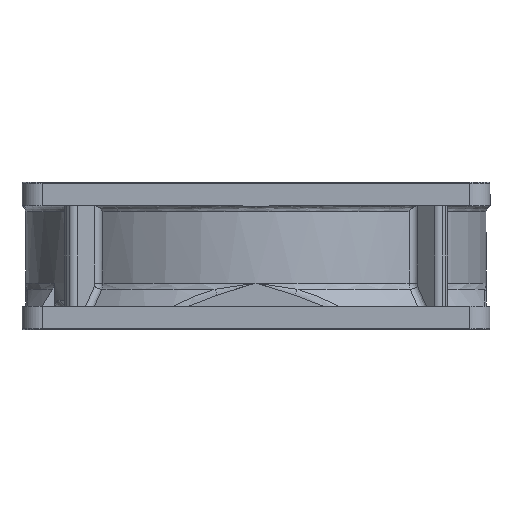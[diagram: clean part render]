
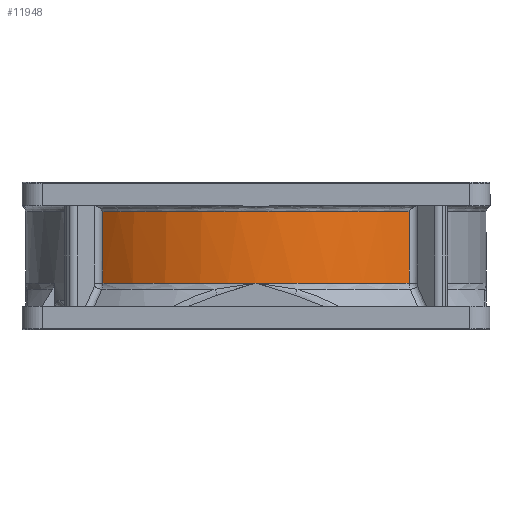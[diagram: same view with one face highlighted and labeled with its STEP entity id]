
A CAD part, front view. The second image highlights one B-rep face of the part: STEP entity #11948.
In plain terms, the highlighted cylindrical face has radius 39.4 mm (diameter 78.8 mm), a partial arc.
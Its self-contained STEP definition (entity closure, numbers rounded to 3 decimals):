
#349 = CARTESIAN_POINT ( 'NONE',  ( 26.156, -29.466, 21.2 ) ) ;
#439 = CARTESIAN_POINT ( 'NONE',  ( -24.373, -31.048, 7.968 ) ) ;
#840 = CARTESIAN_POINT ( 'NONE',  ( -2.384, -39.4, 7.968 ) ) ;
#1028 = EDGE_CURVE ( 'NONE', #13004, #22014, #13681, .T. ) ;
#2783 = CARTESIAN_POINT ( 'NONE',  ( 2.384, -39.4, 7.968 ) ) ;
#3484 = CARTESIAN_POINT ( 'NONE',  ( 18.369, -34.937, 20.2 ) ) ;
#3679 = CARTESIAN_POINT ( 'NONE',  ( -24.373, -31.048, 20.2 ) ) ;
#4407 = CARTESIAN_POINT ( 'NONE',  ( -26.156, -29.466, 7.968 ) ) ;
#4885 = DIRECTION ( 'NONE',  ( 0., 0., 1. ) ) ;
#5724 = EDGE_CURVE ( 'NONE', #30045, #39602, #26516, .T. ) ;
#7314 = CARTESIAN_POINT ( 'NONE',  ( 4.767, -39.183, 7.968 ) ) ;
#8012 = CARTESIAN_POINT ( 'NONE',  ( 11.761, -37.679, 20.2 ) ) ;
#8148 = LINE ( 'NONE', #349, #54982 ) ;
#8446 = CARTESIAN_POINT ( 'NONE',  ( -26.156, -29.466, 7.968 ) ) ;
#9250 = ORIENTED_EDGE ( 'NONE', *, *, #29427, .T. ) ;
#11875 = CARTESIAN_POINT ( 'NONE',  ( 9.456, -38.323, 7.968 ) ) ;
#11948 = ADVANCED_FACE ( 'NONE', ( #16561 ), #39274, .T. ) ;
#12027 = EDGE_CURVE ( 'NONE', #39602, #30598, #13735, .T. ) ;
#12562 = CARTESIAN_POINT ( 'NONE',  ( 4.767, -39.183, 20.2 ) ) ;
#13004 = VERTEX_POINT ( 'NONE', #55385 ) ;
#13681 = B_SPLINE_CURVE_WITH_KNOTS ( 'NONE', 3,
 ( #39029, #2783, #7314, #11875, #43614, #16403, #48166, #20986, #52733, #25574 ),
 .UNSPECIFIED., .F., .F.,
 ( 4, 2, 2, 2, 4 ),
 ( 0., 0.25, 0.5, 0.75, 1. ),
 .UNSPECIFIED. ) ;
#13735 = LINE ( 'NONE', #8446, #25829 ) ;
#16403 = CARTESIAN_POINT ( 'NONE',  ( 16.218, -35.987, 7.968 ) ) ;
#16561 = FACE_OUTER_BOUND ( 'NONE', #28130, .T. ) ;
#17108 = CARTESIAN_POINT ( 'NONE',  ( -2.384, -39.4, 20.2 ) ) ;
#18831 = CARTESIAN_POINT ( 'NONE',  ( -18.369, -34.937, 7.968 ) ) ;
#20986 = CARTESIAN_POINT ( 'NONE',  ( 22.447, -32.468, 7.968 ) ) ;
#21683 = CARTESIAN_POINT ( 'NONE',  ( -9.456, -38.323, 20.2 ) ) ;
#22014 = VERTEX_POINT ( 'NONE', #40852 ) ;
#22191 = CARTESIAN_POINT ( 'NONE',  ( -26.156, -29.466, 7.968 ) ) ;
#23414 = CARTESIAN_POINT ( 'NONE',  ( -11.761, -37.679, 7.968 ) ) ;
#24776 = DIRECTION ( 'NONE',  ( -1., 0., 0. ) ) ;
#25574 = CARTESIAN_POINT ( 'NONE',  ( 26.156, -29.466, 7.968 ) ) ;
#25829 = VECTOR ( 'NONE', #35631, 1000. ) ;
#26070 = CARTESIAN_POINT ( 'NONE',  ( 24.373, -31.048, 20.2 ) ) ;
#26262 = CARTESIAN_POINT ( 'NONE',  ( -16.218, -35.987, 20.2 ) ) ;
#26516 = B_SPLINE_CURVE_WITH_KNOTS ( 'NONE', 3,
 ( #30634, #26070, #53041, #3484, #35177, #8012, #39719, #12562, #44314, #17108, #48874, #21683, #53432, #26262, #57989, #30829, #3679, #35372 ),
 .UNSPECIFIED., .F., .F.,
 ( 4, 2, 2, 2, 2, 2, 2, 2, 4 ),
 ( 0., 0.125, 0.25, 0.375, 0.5, 0.625, 0.75, 0.875, 1. ),
 .UNSPECIFIED. ) ;
#27974 = CARTESIAN_POINT ( 'NONE',  ( -4.767, -39.183, 7.968 ) ) ;
#28130 = EDGE_LOOP ( 'NONE', ( #39705, #9250, #52694, #41087, #47107 ) ) ;
#29427 = EDGE_CURVE ( 'NONE', #30598, #13004, #43376, .T. ) ;
#30045 = VERTEX_POINT ( 'NONE', #52050 ) ;
#30598 = VERTEX_POINT ( 'NONE', #22191 ) ;
#30634 = CARTESIAN_POINT ( 'NONE',  ( 26.156, -29.466, 20.2 ) ) ;
#30829 = CARTESIAN_POINT ( 'NONE',  ( -22.447, -32.468, 20.2 ) ) ;
#32548 = CARTESIAN_POINT ( 'NONE',  ( 0., -39.4, 7.968 ) ) ;
#35177 = CARTESIAN_POINT ( 'NONE',  ( 16.218, -35.987, 20.2 ) ) ;
#35372 = CARTESIAN_POINT ( 'NONE',  ( -26.156, -29.466, 20.2 ) ) ;
#35631 = DIRECTION ( 'NONE',  ( 0., 0., -1. ) ) ;
#38413 = CARTESIAN_POINT ( 'NONE',  ( 0., 0., 21.2 ) ) ;
#39029 = CARTESIAN_POINT ( 'NONE',  ( 0., -39.4, 7.968 ) ) ;
#39274 = CYLINDRICAL_SURFACE ( 'NONE', #55286, 39.4 ) ;
#39602 = VERTEX_POINT ( 'NONE', #58685 ) ;
#39705 = ORIENTED_EDGE ( 'NONE', *, *, #12027, .T. ) ;
#39719 = CARTESIAN_POINT ( 'NONE',  ( 9.456, -38.323, 20.2 ) ) ;
#39818 = EDGE_CURVE ( 'NONE', #22014, #30045, #8148, .T. ) ;
#40852 = CARTESIAN_POINT ( 'NONE',  ( 26.156, -29.466, 7.968 ) ) ;
#41087 = ORIENTED_EDGE ( 'NONE', *, *, #39818, .T. ) ;
#43376 = B_SPLINE_CURVE_WITH_KNOTS ( 'NONE', 3,
 ( #4407, #439, #46026, #18831, #50577, #23414, #55115, #27974, #840, #32548 ),
 .UNSPECIFIED., .F., .F.,
 ( 4, 2, 2, 2, 4 ),
 ( 0., 0.25, 0.5, 0.75, 1. ),
 .UNSPECIFIED. ) ;
#43614 = CARTESIAN_POINT ( 'NONE',  ( 11.761, -37.679, 7.968 ) ) ;
#44314 = CARTESIAN_POINT ( 'NONE',  ( 2.384, -39.4, 20.2 ) ) ;
#46026 = CARTESIAN_POINT ( 'NONE',  ( -22.447, -32.468, 7.968 ) ) ;
#47107 = ORIENTED_EDGE ( 'NONE', *, *, #5724, .T. ) ;
#48166 = CARTESIAN_POINT ( 'NONE',  ( 18.369, -34.937, 7.968 ) ) ;
#48874 = CARTESIAN_POINT ( 'NONE',  ( -4.767, -39.183, 20.2 ) ) ;
#50577 = CARTESIAN_POINT ( 'NONE',  ( -16.218, -35.987, 7.968 ) ) ;
#51920 = DIRECTION ( 'NONE',  ( 0., 0., -1. ) ) ;
#52050 = CARTESIAN_POINT ( 'NONE',  ( 26.156, -29.466, 20.2 ) ) ;
#52694 = ORIENTED_EDGE ( 'NONE', *, *, #1028, .T. ) ;
#52733 = CARTESIAN_POINT ( 'NONE',  ( 24.373, -31.048, 7.968 ) ) ;
#53041 = CARTESIAN_POINT ( 'NONE',  ( 22.447, -32.468, 20.2 ) ) ;
#53432 = CARTESIAN_POINT ( 'NONE',  ( -11.761, -37.679, 20.2 ) ) ;
#54982 = VECTOR ( 'NONE', #4885, 1000. ) ;
#55115 = CARTESIAN_POINT ( 'NONE',  ( -9.456, -38.323, 7.968 ) ) ;
#55286 = AXIS2_PLACEMENT_3D ( 'NONE', #38413, #51920, #24776 ) ;
#55385 = CARTESIAN_POINT ( 'NONE',  ( 0., -39.4, 7.968 ) ) ;
#57989 = CARTESIAN_POINT ( 'NONE',  ( -18.369, -34.937, 20.2 ) ) ;
#58685 = CARTESIAN_POINT ( 'NONE',  ( -26.156, -29.466, 20.2 ) ) ;
